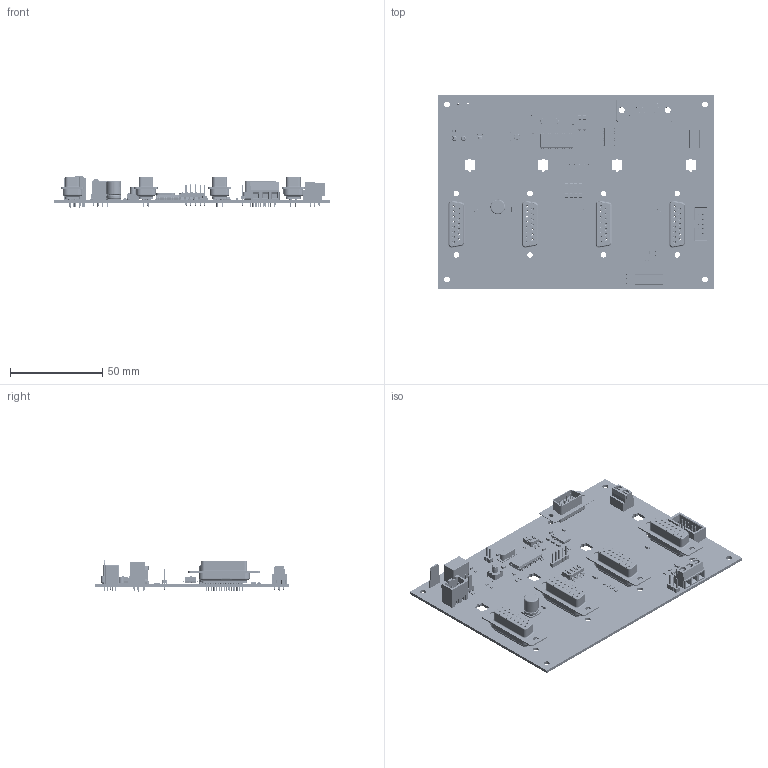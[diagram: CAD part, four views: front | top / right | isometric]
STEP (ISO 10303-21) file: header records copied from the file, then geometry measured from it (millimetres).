
FILE_DESCRIPTION (( 'STEP AP203' ), '1' );
FILE_NAME ('0822_INT-FOEM-RS_0100.STEP', '2022-08-04T10:05:31', ( '' ), ( '' ), 'SwSTEP 2.0', 'SolidWorks 2020', '' );
FILE_SCHEMA (( 'CONFIG_CONTROL_DESIGN' ));
Products named in the file (1): 0822_INT-FOEM-RS_0100
Bounding box: 150 x 105 x 16.9 mm (x, y, z)
Volume: 41915.1 mm3; surface area: 70333.2 mm2
Topology: 159 solids, 160 shells, 9995 faces, 26519 edges, 17024 vertices
Faces by surface type: plane 6298, cylinder 2256, cone 904, bspline 381, torus 152, sphere 4
Full cylindrical faces by diameter (mm): 0.02 x1, 0.4 x1, 0.5 x3, 0.57 x6, 0.6 x19, 0.64 x27, 0.8 x3, 0.9 x5, 1 x62, 1.1 x15, 1.19 x9, 1.2 x64, 1.5 x60, 1.524 x5, 1.6 x62, 2.4 x2, 2.75 x2, 3 x16, 3.05 x8, 3.2 x8, 3.25 x1, 3.5 x1, 3.8 x1, 8 x2
Entity records: 337332 total; most frequent: CARTESIAN_POINT 102091, ORIENTED_EDGE 51744, DIRECTION 44955, EDGE_CURVE 25872, VERTEX_POINT 16875, VECTOR 15453, LINE 15453, AXIS2_PLACEMENT_3D 14751
